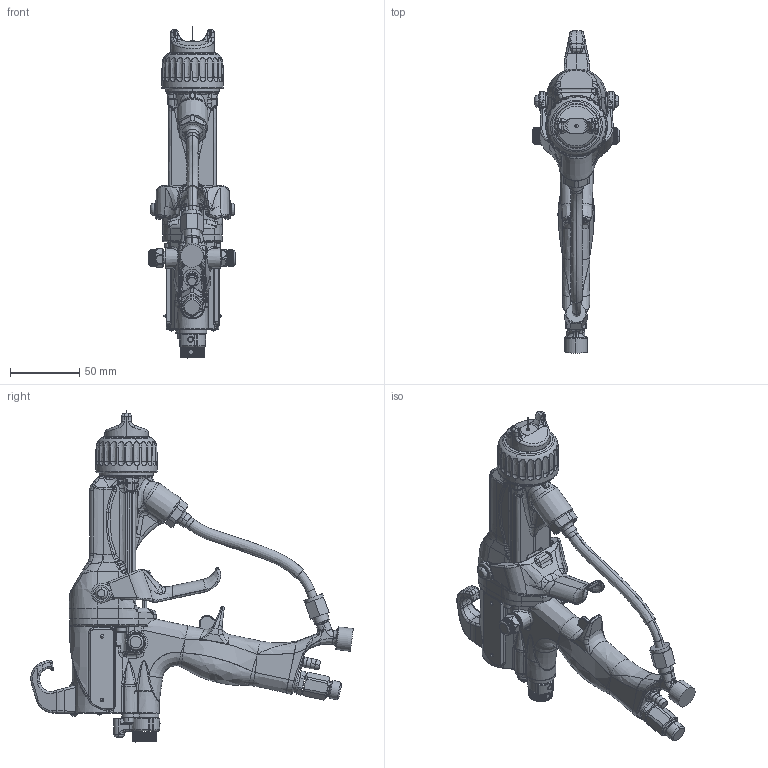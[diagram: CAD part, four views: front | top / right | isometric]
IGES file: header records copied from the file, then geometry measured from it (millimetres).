
Start section:  PTC IGES file: l60t72-en-c.igs
Global section: file name: l60t72-en-c.igs; native system: Creo Parametric by PTC Inc.; preprocessor: 2019030; author: qusrh3; organization: Unknown; date: 20200518.163622; units: inch
Bounding box: 62.61 x 233.22 x 240.16 mm (x, y, z)
Surface area: 91802.6 mm2 (no closed solid volume)
Topology: 0 solids, 0 shells, 2662 faces, 13358 edges, 13351 vertices
Faces by surface type: bspline 1416, revolution 1242, extrusion 4
